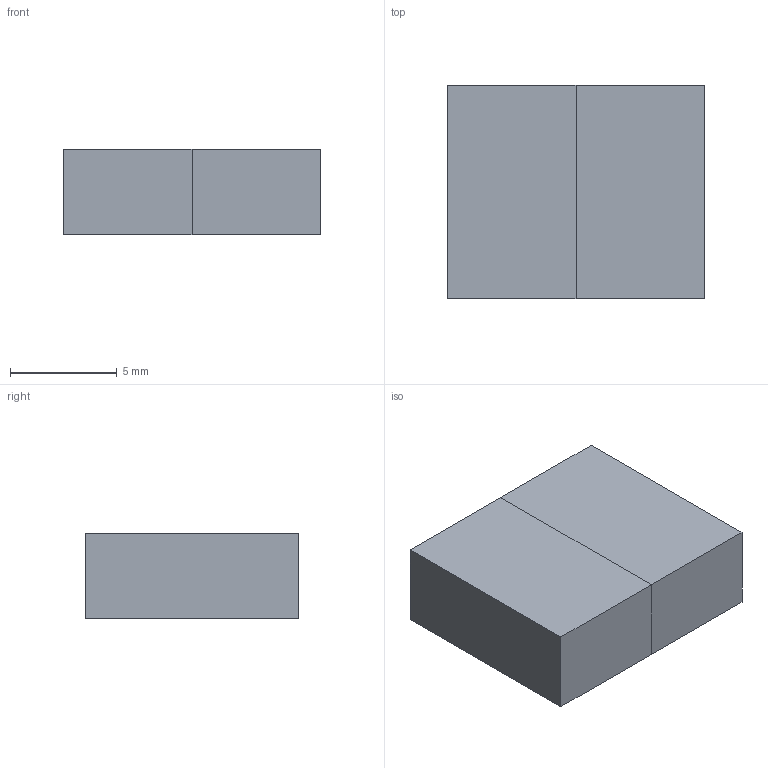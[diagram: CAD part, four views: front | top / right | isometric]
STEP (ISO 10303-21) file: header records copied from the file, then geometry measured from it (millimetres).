
FILE_DESCRIPTION(('Open CASCADE Model'),'2;1');
FILE_NAME('Open CASCADE Shape Model','2000-01-01T00:00:00',('Author'),( 'Open CASCADE'),'Open CASCADE STEP processor 7.9','Open CASCADE 7.9' ,'Unknown');
FILE_SCHEMA(('AUTOMOTIVE_DESIGN { 1 0 10303 214 1 1 1 1 }'));
Length unit declared in the file: millimetre
Products named in the file (1): Open CASCADE STEP translator 7.9 1
Bounding box: 12 x 10 x 4 mm (x, y, z)
Volume: 480 mm3; surface area: 416 mm2
Topology: 1 solids, 1 shells, 10 faces, 20 edges, 12 vertices
Faces by surface type: plane 10
Entity records: 522 total; most frequent: CARTESIAN_POINT 83, DIRECTION 82, LINE 60, VECTOR 60, ORIENTED_EDGE 40, PCURVE 40, DEFINITIONAL_REPRESENTATION 40, EDGE_CURVE 20
